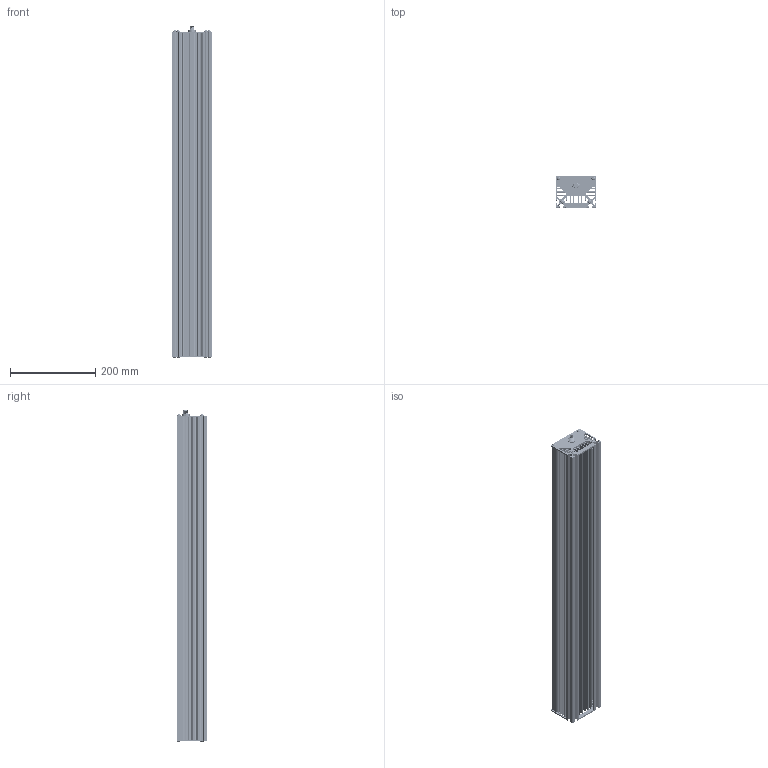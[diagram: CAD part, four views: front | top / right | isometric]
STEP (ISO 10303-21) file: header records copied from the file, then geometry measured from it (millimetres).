
FILE_DESCRIPTION (( 'STEP AP214' ), '1' );
FILE_NAME ('MLLT128.75-XXX.STEP', '2026-05-26T02:08:38', ( '' ), ( '' ), 'SwSTEP 2.0', 'SolidWorks 2025', '' );
FILE_SCHEMA (( 'AUTOMOTIVE_DESIGN' ));
Length unit declared in the file: inch
Products named in the file (22): MLL111.5-3535; FSW 4.5-0.2 Connector; 10-32 x .750_92949A269; 3535_holder_10568; SD-MLLTxxxx_28.75; 2500-00565C-SBN; 2610-00066-DOME; xpg3; 2500-00565C_ASM; 2060-401; Extrusion MLLT_End M12 B&L-code; MLL111.5-3535_PCB-LL111.5; MLLT128.75-XXX; 2500-00565C-SB; LED-Lens Holder and Lens; Extrusion MLLT_28.75; MLL111.5-3535_PCB-LL16; Standard Lens; 2500-00565C; 2500-00565C-BT; Extrusion MLLT_End; MLL111.5-3535_MLL16
Assembly tree (51 placements, depth 6):
  MLLT128.75-XXX
    Extrusion MLLT_28.75
    Extrusion MLLT_End M12 B&L-code
    Extrusion MLLT_End
    10-32 x .750_92949A269  x8
    FSW 4.5-0.2 Connector
    MLL111.5-3535  x2
      MLL111.5-3535_PCB-LL111.5
      LED-Lens Holder and Lens
        3535_holder_10568
        xpg3
          2500-00565C_ASM
            2500-00565C
            2500-00565C-BT
            2500-00565C-SBN
            2500-00565C-SB
          2610-00066-DOME
        Standard Lens
      2060-401
    MLL111.5-3535_MLL16
      MLL111.5-3535_PCB-LL16
      LED-Lens Holder and Lens  x6
        3535_holder_10568
        xpg3
          2500-00565C_ASM
            2500-00565C
            2500-00565C-BT
            2500-00565C-SBN
            2500-00565C-SB
          2610-00066-DOME
        Standard Lens
      2060-401  x2
    SD-MLLTxxxx_28.75
Bounding box: 95.25 x 72.5 x 777.62 mm (x, y, z)
Volume: 1570373.3 mm3; surface area: 1183437.1 mm2
Topology: 299 solids, 299 shells, 7920 faces, 20433 edges, 13236 vertices
Faces by surface type: plane 4595, cylinder 1414, cone 1127, bspline 730, torus 36, sphere 18
Full cylindrical faces by diameter (mm): 0.05 x30, 0.063 x60, 1 x35, 2.25 x10, 2.261 x10, 4.178 x184, 4.826 x176, 5.105 x8, 5.944 x30, 8 x1, 8.3 x1, 9 x1, 9.169 x8, 9.4 x1, 9.45 x2, 9.9 x1, 10 x1, 10.5 x1, 11.4 x1, 12 x1, 13.5 x2, 19.71 x30
Entity records: 38233 total; most frequent: CARTESIAN_POINT 11369, DIRECTION 5234, ORIENTED_EDGE 5104, EDGE_CURVE 2552, AXIS2_PLACEMENT_3D 1894, VERTEX_POINT 1755, LINE 1446, VECTOR 1446
